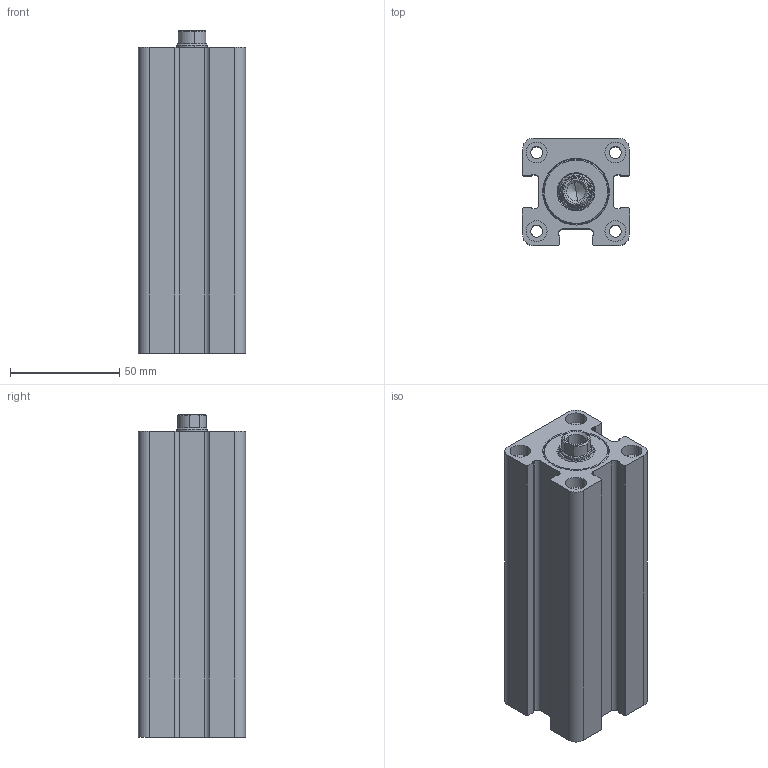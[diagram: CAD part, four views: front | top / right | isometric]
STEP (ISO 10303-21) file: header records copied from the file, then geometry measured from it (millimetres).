
FILE_DESCRIPTION (( 'STEP AP214' ), '1' );
FILE_NAME ('KSWC_03_M_25_14_95_WEB.STEP', '2021-08-15T14:41:59', ( '' ), ( '' ), 'SwSTEP 2.0', 'SolidWorks 2021', '' );
FILE_SCHEMA (( 'AUTOMOTIVE_DESIGN' ));
Length unit declared in the file: millimetre
Products named in the file (6): K06-14X18_6X2_3X3_3 (K06-014); KSWC_03_25_GOVDE_WEB; KSWC_03_M_25_14_95_WEB; KSWC_03_25_14_烰_KAPAK; 14_K_MIL_WEB; KSWC_03_25_14_ON_KAPAK
Assembly tree (5 placements, depth 3):
  KSWC_03_M_25_14_95_WEB
    KSWC_03_25_GOVDE_WEB
    KSWC_03_25_14_ON_KAPAK
      KSWC_03_25_14_烰_KAPAK
      K06-14X18_6X2_3X3_3 (K06-014)
    14_K_MIL_WEB
Bounding box: 49 x 49 x 147.5 mm (x, y, z)
Volume: 251255.5 mm3; surface area: 60816.6 mm2
Topology: 4 solids, 4 shells, 404 faces, 996 edges, 639 vertices
Faces by surface type: plane 147, bspline 121, cylinder 91, cone 45
Entity records: 16786 total; most frequent: CARTESIAN_POINT 7598, ORIENTED_EDGE 1988, DIRECTION 1537, EDGE_CURVE 994, VERTEX_POINT 639, VECTOR 513, LINE 513, AXIS2_PLACEMENT_3D 512
